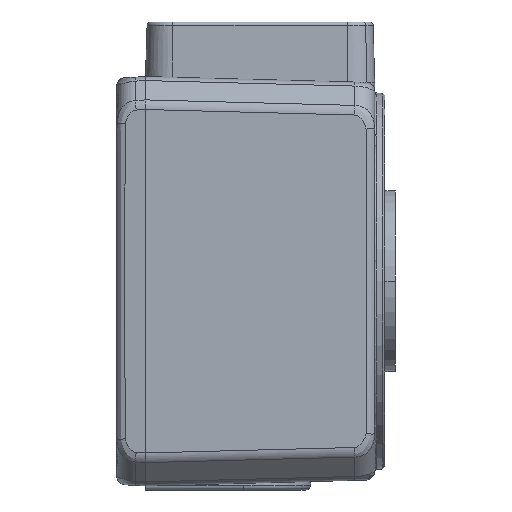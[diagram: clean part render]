
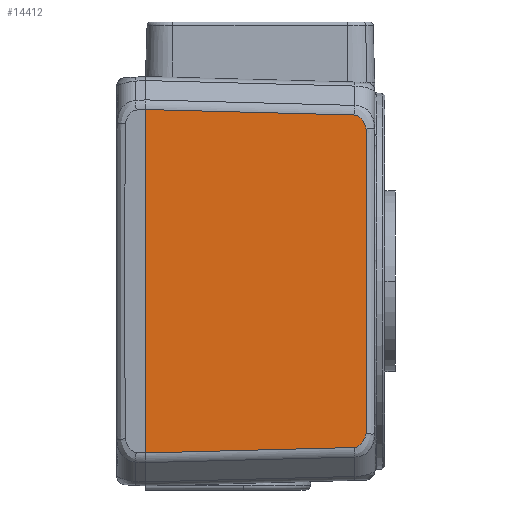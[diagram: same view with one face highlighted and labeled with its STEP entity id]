
A CAD part, left-side view. The second image highlights one B-rep face of the part: STEP entity #14412.
In plain terms, the highlighted planar face has unit normal (-1, -0.026, 0).
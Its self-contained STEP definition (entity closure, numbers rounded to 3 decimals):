
#3004=DIRECTION('',(0.026,-0.999,-0.026));
#3005=VECTOR('',#3004,30.71);
#3006=CARTESIAN_POINT('',(-30.,7.8,25.17));
#3007=LINE('',#3006,#3005);
#3008=CARTESIAN_POINT('',(-29.196,-22.889,
24.367));
#3009=CARTESIAN_POINT('',(-29.192,-23.055,
24.362));
#3010=CARTESIAN_POINT('',(-29.183,-23.388,
24.263));
#3011=CARTESIAN_POINT('',(-29.17,-23.887,
23.805));
#3012=CARTESIAN_POINT('',(-29.159,-24.301,
23.12));
#3013=CARTESIAN_POINT('',(-29.155,-24.479,
22.58));
#3014=CARTESIAN_POINT('',(-29.153,-24.531,
22.3));
#3016=CARTESIAN_POINT('',(-29.153,-24.531,
22.3));
#3017=CARTESIAN_POINT('',(-29.152,-24.572,
22.073));
#3018=CARTESIAN_POINT('',(-29.151,-24.622,
21.61));
#3019=CARTESIAN_POINT('',(-29.151,-24.633,
20.913));
#3020=CARTESIAN_POINT('',(-29.151,-24.631,
20.216));
#3021=CARTESIAN_POINT('',(-29.151,-24.632,
19.287));
#3022=CARTESIAN_POINT('',(-29.151,-24.631,
18.125));
#3023=CARTESIAN_POINT('',(-29.151,-24.631,
16.731));
#3024=CARTESIAN_POINT('',(-29.151,-24.631,
15.336));
#3025=CARTESIAN_POINT('',(-29.151,-24.631,
13.477));
#3026=CARTESIAN_POINT('',(-29.151,-24.631,
11.154));
#3027=CARTESIAN_POINT('',(-29.151,-24.631,
8.365));
#3028=CARTESIAN_POINT('',(-29.151,-24.631,
5.577));
#3029=CARTESIAN_POINT('',(-29.151,-24.631,
2.788));
#3030=CARTESIAN_POINT('',(-29.151,-24.631,
0.));
#3031=CARTESIAN_POINT('',(-29.151,-24.631,
-2.788));
#3032=CARTESIAN_POINT('',(-29.151,-24.631,
-5.577));
#3033=CARTESIAN_POINT('',(-29.151,-24.631,
-8.365));
#3034=CARTESIAN_POINT('',(-29.151,-24.631,
-11.154));
#3035=CARTESIAN_POINT('',(-29.151,-24.631,
-13.477));
#3036=CARTESIAN_POINT('',(-29.151,-24.631,
-15.336));
#3037=CARTESIAN_POINT('',(-29.151,-24.631,
-16.731));
#3038=CARTESIAN_POINT('',(-29.151,-24.631,
-18.125));
#3039=CARTESIAN_POINT('',(-29.151,-24.632,
-19.287));
#3040=CARTESIAN_POINT('',(-29.151,-24.631,
-20.216));
#3041=CARTESIAN_POINT('',(-29.151,-24.633,
-20.913));
#3042=CARTESIAN_POINT('',(-29.151,-24.622,
-21.61));
#3043=CARTESIAN_POINT('',(-29.152,-24.572,
-22.073));
#3044=CARTESIAN_POINT('',(-29.153,-24.531,
-22.3));
#3046=CARTESIAN_POINT('',(-29.153,-24.531,
-22.3));
#3047=CARTESIAN_POINT('',(-29.155,-24.479,
-22.58));
#3048=CARTESIAN_POINT('',(-29.159,-24.301,
-23.12));
#3049=CARTESIAN_POINT('',(-29.17,-23.887,
-23.805));
#3050=CARTESIAN_POINT('',(-29.183,-23.388,
-24.263));
#3051=CARTESIAN_POINT('',(-29.192,-23.055,
-24.362));
#3052=CARTESIAN_POINT('',(-29.196,-22.889,
-24.367));
#3054=DIRECTION('',(-0.026,0.999,-0.026));
#3055=VECTOR('',#3054,30.71);
#3056=CARTESIAN_POINT('',(-29.196,-22.889,
-24.367));
#3057=LINE('',#3056,#3055);
#3058=DIRECTION('',(0.,0.,1.));
#3059=VECTOR('',#3058,50.341);
#3060=CARTESIAN_POINT('',(-30.,7.8,
-25.17));
#3061=LINE('',#3060,#3059);
#3062=CARTESIAN_POINT('',(-30.,7.8,25.17));
#3282=CARTESIAN_POINT('',(-29.153,-24.531,
22.3));
#7219=VERTEX_POINT('',#3062);
#7220=CARTESIAN_POINT('',(-30.,7.8,
-25.17));
#7221=VERTEX_POINT('',#7220);
#7245=VERTEX_POINT('',#3282);
#7246=CARTESIAN_POINT('',(-29.196,-22.889,
24.367));
#7247=VERTEX_POINT('',#7246);
#7248=VERTEX_POINT('',#3044);
#7249=VERTEX_POINT('',#3052);
#14395=CARTESIAN_POINT('',(-29.575,-8.419,0.));
#14396=DIRECTION('',(1.,0.026,0.));
#14397=DIRECTION('',(0.,0.,1.));
#14398=AXIS2_PLACEMENT_3D('',#14395,#14396,#14397);
#14399=PLANE('',#14398);
#14401=ORIENTED_EDGE('',*,*,#14400,.T.);
#14403=ORIENTED_EDGE('',*,*,#14402,.T.);
#14405=ORIENTED_EDGE('',*,*,#14404,.T.);
#14407=ORIENTED_EDGE('',*,*,#14406,.T.);
#14408=ORIENTED_EDGE('',*,*,#14380,.T.);
#14409=ORIENTED_EDGE('',*,*,#12890,.T.);
#14410=EDGE_LOOP('',(#14401,#14403,#14405,#14407,#14408,#14409));
#14411=FACE_OUTER_BOUND('',#14410,.F.);
#14412=ADVANCED_FACE('',(#14411),#14399,.F.);
#3015=B_SPLINE_CURVE_WITH_KNOTS('',3,(#3008,#3009,#3010,#3011,#3012,#3013,
#3014),.UNSPECIFIED.,.F.,.F.,(4,1,1,1,4),(0.,0.25,0.5,0.75,1.),
.UNSPECIFIED.);
#3045=B_SPLINE_CURVE_WITH_KNOTS('',3,(#3016,#3017,#3018,#3019,#3020,#3021,#3022,
#3023,#3024,#3025,#3026,#3027,#3028,#3029,#3030,#3031,#3032,#3033,#3034,#3035,
#3036,#3037,#3038,#3039,#3040,#3041,#3042,#3043,#3044),.UNSPECIFIED.,.F.,.F.,(4,
1,1,1,1,1,1,1,1,1,1,1,1,1,1,1,1,1,1,1,1,1,1,1,1,1,4),(0.,0.016,0.031,
0.047,0.063,0.094,0.125,0.156,0.188,0.25,0.313,0.375,
0.438,0.5,0.563,0.625,0.688,0.75,0.813,0.844,0.875,
0.906,0.938,0.953,0.969,0.984,1.),.UNSPECIFIED.);
#3053=B_SPLINE_CURVE_WITH_KNOTS('',3,(#3046,#3047,#3048,#3049,#3050,#3051,
#3052),.UNSPECIFIED.,.F.,.F.,(4,1,1,1,4),(0.,0.25,0.5,0.75,1.),
.UNSPECIFIED.);
#12890=EDGE_CURVE('',#7221,#7219,#3061,.T.);
#14380=EDGE_CURVE('',#7249,#7221,#3057,.T.);
#14400=EDGE_CURVE('',#7219,#7247,#3007,.T.);
#14402=EDGE_CURVE('',#7247,#7245,#3015,.T.);
#14404=EDGE_CURVE('',#7245,#7248,#3045,.T.);
#14406=EDGE_CURVE('',#7248,#7249,#3053,.T.);
